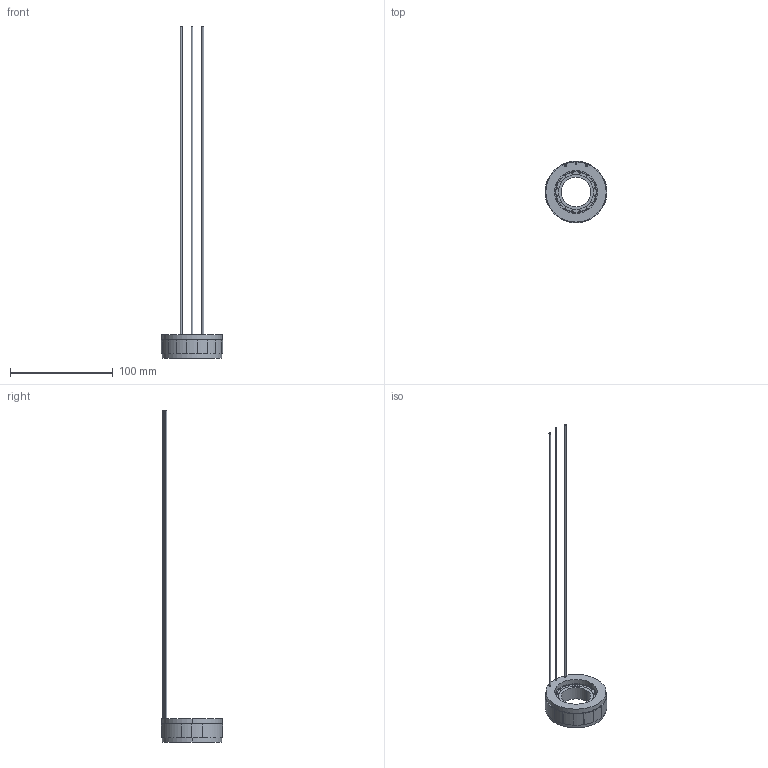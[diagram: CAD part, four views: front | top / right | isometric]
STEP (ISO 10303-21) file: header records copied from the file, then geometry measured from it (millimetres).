
FILE_DESCRIPTION (( 'STEP AP203' ), '1' );
FILE_NAME ('307080121SS(FMC06012-0014-3128N-8DK00)-V1.3.STEP', '2022-12-08T09:09:54', ( 'muse' ), ( 'muse' ), 'SwSTEP 2.0', 'SolidWorks 2022', '' );
FILE_SCHEMA (( 'CONFIG_CONTROL_DESIGN' ));
Length unit declared in the file: millimetre
Products named in the file (5): 线包; 60转子铁芯17.27; 60l17.27磁钢; 60L12.6定子铁芯; 307080121SS(FMC06012-0014-3128N-8DK00)-V1.3
Assembly tree (36 placements, depth 2):
  307080121SS(FMC06012-0014-3128N-8DK00)-V1.3
    60L12.6定子铁芯  x18
    线包
    60转子铁芯17.27
    60l17.27磁钢  x16
Bounding box: 60 x 59.9 x 322.7 mm (x, y, z)
Volume: 34812.3 mm3; surface area: 34129.3 mm2
Topology: 37 solids, 37 shells, 555 faces, 1434 edges, 956 vertices
Faces by surface type: plane 361, cylinder 194
Entity records: 3199 total; most frequent: DIRECTION 380, CARTESIAN_POINT 316, ORIENTED_EDGE 264, AXIS2_PLACEMENT_3D 152, EDGE_CURVE 132, CALENDAR_DATE 97, DATE_AND_TIME 97, COORDINATED_UNIVERSAL_TIME_OFFSET 97
